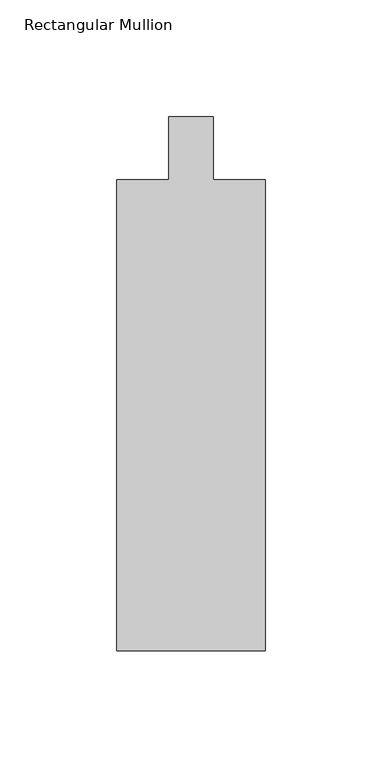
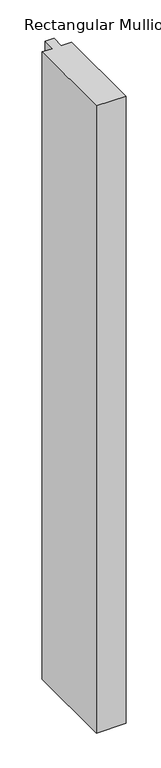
"""IFC4 building model written with IfcOpenShell, lengths in millimetres: member geometry."""

from ifc_helpers import new_model, si_unit, frame, origin, place, context, project, spatial, polyline, outline, extrude, source, transform, mapped, element, save


def rectangular_mullion_72d92243(model_context):
    return source(origin(), model_context, "Body", "SweptSolid", [
        extrude(outline(polyline([(-63.5, -228.6), (-63.5, -26.9875), (-41.275, -26.9875), (-41.275, 0.0), (-22.225, 0.0), (-22.225, -26.9875), (0.0, -26.9875), (0.0, -228.6), (-63.5, -228.6)])), frame((0.0, 0.0, -1419.86), z_axis=(0.0, 0.0, 1.0), x_axis=(1.0, 0.0, 0.0)), (0.0, 0.0, 1.0), 1419.86),
    ])


if __name__ == "__main__":
    model = new_model("IFC4")
    model_context = context("Model", 3, world=origin())
    ifc_project = project(units=[si_unit("LENGTHUNIT", "METRE", prefix="MILLI")], contexts=[model_context])
    site = spatial("IfcSite", under=ifc_project)
    building = spatial("IfcBuilding", under=site)
    placement = place(None, origin())
    rectangular_mullion_shape = rectangular_mullion_72d92243(model_context)
    element("IfcMember", 1, ObjectType="Rectangular Mullion : 2 1/2\" x 8\" - Capless", at=placement, inside=building, context=model_context, shape_type="MappedRepresentation", body=[
        mapped(rectangular_mullion_shape, transform((0.0, 0.0, 0.0), x_axis=(1.0, 0.0, 0.0), y_axis=(0.0, 1.0, 0.0), z_axis=(0.0, 0.0, 1.0))),
    ])
    save(model, "model.ifc")
